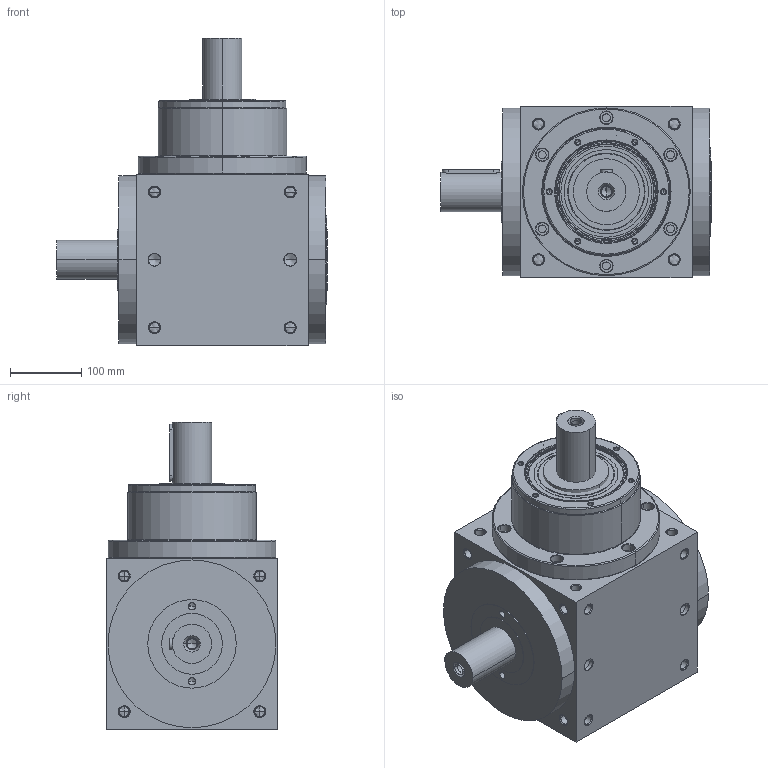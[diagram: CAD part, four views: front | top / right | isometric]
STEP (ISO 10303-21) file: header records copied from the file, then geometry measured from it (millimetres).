
FILE_DESCRIPTION((''),'2;1');
FILE_NAME('ATB240L1-1_ASM','2014-07-18T',('D00080'),(''),'PRO/ENGINEER BY PARAMETRIC TECHNOLOGY CORPORATION, 2008170','PRO/ENGINEER BY PARAMETRIC TECHNOLOGY CORPORATION, 2008170','');
FILE_SCHEMA(('CONFIG_CONTROL_DESIGN'));
Length unit declared in the file: millimetre
Products named in the file (4): ATBL1-HOUSING-1-9; P1820900001; 22400071009; ATB240L1-1_ASM
Assembly tree (3 placements, depth 2):
  ATB240L1-1_ASM
    ATBL1-HOUSING-1-9
    P1820900001
    22400071009
Bounding box: 379 x 240 x 430 mm (x, y, z)
Volume: 18457794 mm3; surface area: 747202.2 mm2
Topology: 4 solids, 36 shells, 592 faces, 1464 edges, 867 vertices
Faces by surface type: cylinder 274, cone 206, plane 76, torus 36
Entity records: 17740 total; most frequent: CARTESIAN_POINT 3766, DIRECTION 3136, ORIENTED_EDGE 2644, EDGE_CURVE 1386, AXIS2_PLACEMENT_3D 1315, VERTEX_POINT 867, CIRCLE 712, EDGE_LOOP 705
